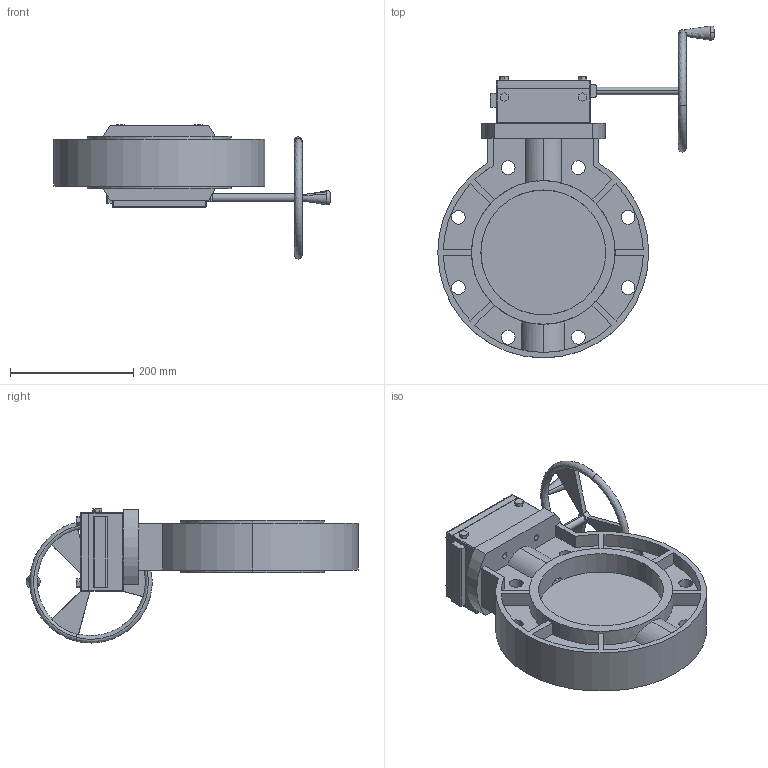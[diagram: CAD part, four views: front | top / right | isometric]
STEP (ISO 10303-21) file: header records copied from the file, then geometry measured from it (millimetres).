
FILE_DESCRIPTION (( 'STEP AP214' ), '1' );
FILE_NAME ('411 NG - 8 Inch-.STEP', '2020-12-28T03:53:22', ( '' ), ( '' ), 'SwSTEP 2.0', 'SolidWorks 2019', '' );
FILE_SCHEMA (( 'AUTOMOTIVE_DESIGN' ));
Length unit declared in the file: inch
Products named in the file (1): 411 NG - 8 Inch-
Bounding box: 449.33 x 539.64 x 217.82 mm (x, y, z)
Volume: 5646688.8 mm3; surface area: 695550.6 mm2
Topology: 11 solids, 11 shells, 269 faces, 698 edges, 440 vertices
Faces by surface type: plane 150, cylinder 99, sphere 12, bspline 8
Entity records: 13671 total; most frequent: CARTESIAN_POINT 3395, DIRECTION 1380, ORIENTED_EDGE 1372, EDGE_CURVE 686, AXIS2_PLACEMENT_3D 485, VERTEX_POINT 440, VECTOR 410, LINE 410
